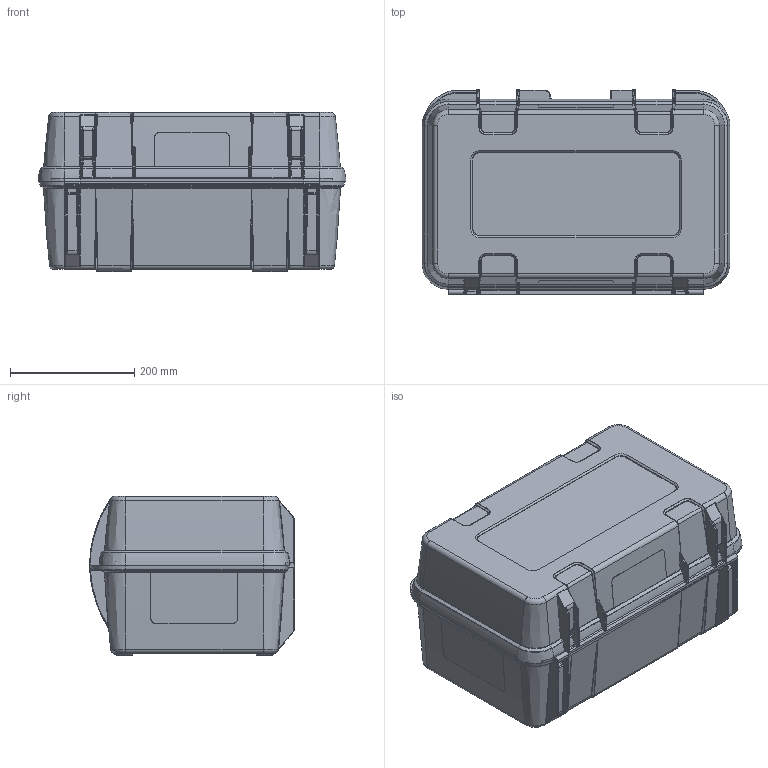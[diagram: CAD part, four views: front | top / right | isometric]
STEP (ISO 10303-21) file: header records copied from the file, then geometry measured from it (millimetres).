
FILE_DESCRIPTION(/* description */ (''),/* implementation_level */ '2;1');
FILE_NAME(/* name */ 'C100_Case_OT-UT.stp',/* time_stamp */ '2014-10-06T09:40:28+02:00',/* author */ (''),/* organization */ (''),/* preprocessor_version */ 'ST-DEVELOPER v15',/* originating_system */ 'SIEMENS PLM Software NX 8.5',/* authorisation */ '');
FILE_SCHEMA (('AUTOMOTIVE_DESIGN { 1 0 10303 214 3 1 1 1 }'));
Products named in the file (1): pk1A9099730gz0
Bounding box: 496 x 330 x 256.3 mm (x, y, z)
Volume: 2375373.3 mm3; surface area: 1387222.2 mm2
Topology: 2 solids, 2 shells, 3100 faces, 7425 edges, 4279 vertices
Faces by surface type: bspline 1282, cylinder 920, plane 589, torus 103, extrusion 73, cone 67, sphere 66
Entity records: 134650 total; most frequent: CARTESIAN_POINT 59100, ORIENTED_EDGE 14676, DIRECTION 11865, EDGE_CURVE 7338, AXIS2_PLACEMENT_3D 4685, VERTEX_POINT 4283, EDGE_LOOP 3141, ADVANCED_FACE 3100
